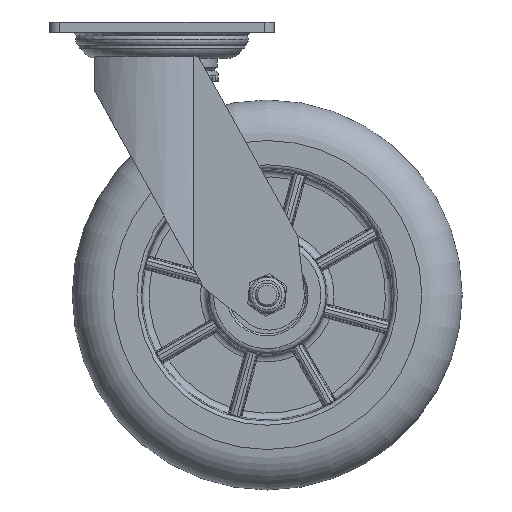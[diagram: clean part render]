
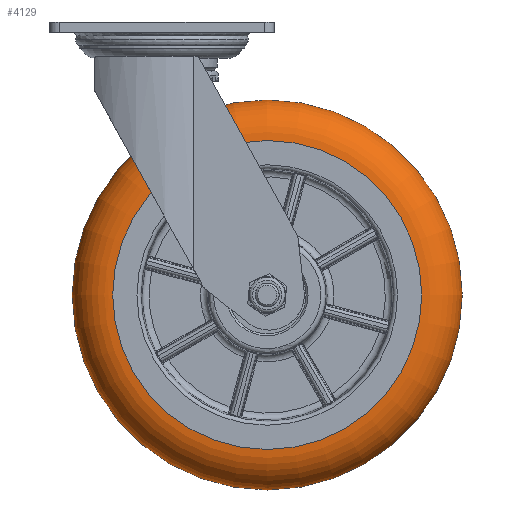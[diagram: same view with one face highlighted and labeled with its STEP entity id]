
A CAD part, front view. The second image highlights one B-rep face of the part: STEP entity #4129.
In plain terms, the highlighted toroidal (fillet/blend) face has major radius 79.237 mm and minor radius 20.763 mm.
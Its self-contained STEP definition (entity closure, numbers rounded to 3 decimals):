
#4129=ADVANCED_FACE('',(#5218,#5219),#5124,.T.);
#5124=TOROIDAL_SURFACE('',#16293,79.237,20.763);
#5218=FACE_BOUND('',#5538,.T.);
#5219=FACE_BOUND('',#5539,.T.);
#5538=EDGE_LOOP('',(#6727));
#5539=EDGE_LOOP('',(#6728));
#6727=ORIENTED_EDGE('',*,*,#13111,.T.);
#6728=ORIENTED_EDGE('',*,*,#13109,.F.);
#11559=VERTEX_POINT('',#21543);
#11561=VERTEX_POINT('',#21548);
#13109=EDGE_CURVE('',#11559,#11559,#15526,.T.);
#13111=EDGE_CURVE('',#11561,#11561,#15528,.T.);
#15526=CIRCLE('',#16289,100.);
#15528=CIRCLE('',#16292,79.237);
#16289=AXIS2_PLACEMENT_3D('',#21542,#17833,#17834);
#16292=AXIS2_PLACEMENT_3D('',#21547,#17839,#17840);
#16293=AXIS2_PLACEMENT_3D('',#21549,#17841,#17842);
#17833=DIRECTION('',(0.,1.,0.));
#17834=DIRECTION('',(-1.,0.,0.));
#17839=DIRECTION('',(0.,1.,0.));
#17840=DIRECTION('',(-1.,0.,0.));
#17841=DIRECTION('',(0.,-1.,0.));
#17842=DIRECTION('',(-1.,0.,0.));
#21542=CARTESIAN_POINT('',(54.,-3.987,-140.));
#21543=CARTESIAN_POINT('',(-46.,-3.987,-140.));
#21547=CARTESIAN_POINT('',(54.,-24.75,-140.));
#21548=CARTESIAN_POINT('',(-25.237,-24.75,-140.));
#21549=CARTESIAN_POINT('',(54.,-3.987,-140.));
